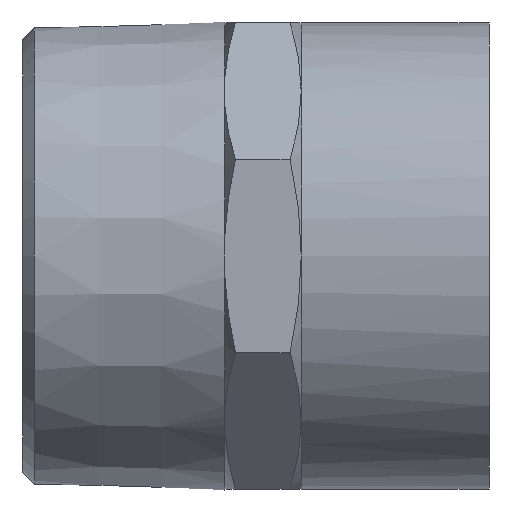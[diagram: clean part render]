
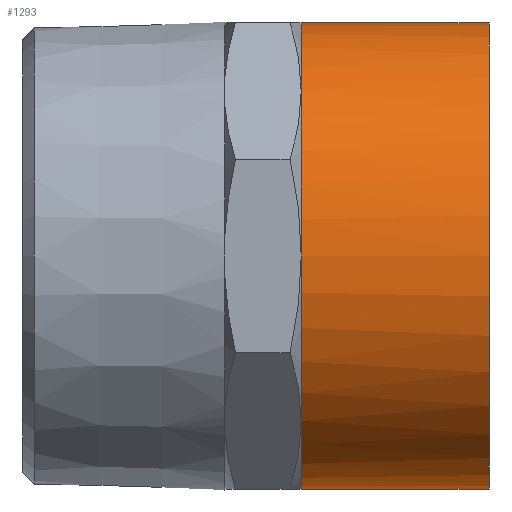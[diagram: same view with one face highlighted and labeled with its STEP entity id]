
A CAD part, front view. The second image highlights one B-rep face of the part: STEP entity #1293.
In plain terms, the highlighted cylindrical face has radius 30 mm (diameter 60 mm), a full revolution.
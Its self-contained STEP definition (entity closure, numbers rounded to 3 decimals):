
#98=CARTESIAN_POINT('',(35.816,30.,0.));
#99=VERTEX_POINT('',#98);
#181=CARTESIAN_POINT('',(35.816,21.213,-21.213));
#182=VERTEX_POINT('',#181);
#264=CARTESIAN_POINT('',(35.816,0.,-30.));
#265=VERTEX_POINT('',#264);
#347=CARTESIAN_POINT('',(35.816,-21.213,-21.213));
#348=VERTEX_POINT('',#347);
#430=CARTESIAN_POINT('',(35.816,-30.,0.));
#431=VERTEX_POINT('',#430);
#616=CARTESIAN_POINT('',(35.816,-21.213,21.213));
#617=VERTEX_POINT('',#616);
#722=CARTESIAN_POINT('',(35.816,21.213,21.213));
#723=VERTEX_POINT('',#722);
#776=CARTESIAN_POINT('',(35.816,0.,30.));
#777=VERTEX_POINT('',#776);
#778=CARTESIAN_POINT('',(35.816,0.0,0.0));
#779=DIRECTION('',(1.0,0.0,0.0));
#780=DIRECTION('',(0.0,1.0,0.0));
#781=AXIS2_PLACEMENT_3D('',#778,#779,#780);
#782=CIRCLE('',#781,30.0);
#783=EDGE_CURVE('',#777,#617,#782,.T.);
#807=CARTESIAN_POINT('',(35.816,0.0,0.0));
#808=DIRECTION('',(1.0,0.0,0.0));
#809=DIRECTION('',(0.0,1.0,0.0));
#810=AXIS2_PLACEMENT_3D('',#807,#808,#809);
#811=CIRCLE('',#810,30.0);
#812=EDGE_CURVE('',#617,#431,#811,.T.);
#824=CARTESIAN_POINT('',(35.816,0.0,0.0));
#825=DIRECTION('',(1.0,0.0,0.0));
#826=DIRECTION('',(0.0,1.0,0.0));
#827=AXIS2_PLACEMENT_3D('',#824,#825,#826);
#828=CIRCLE('',#827,30.0);
#829=EDGE_CURVE('',#431,#348,#828,.T.);
#841=CARTESIAN_POINT('',(35.816,0.0,0.0));
#842=DIRECTION('',(1.0,0.0,0.0));
#843=DIRECTION('',(0.0,1.0,0.0));
#844=AXIS2_PLACEMENT_3D('',#841,#842,#843);
#845=CIRCLE('',#844,30.0);
#846=EDGE_CURVE('',#348,#265,#845,.T.);
#858=CARTESIAN_POINT('',(35.816,0.0,0.0));
#859=DIRECTION('',(1.0,0.0,0.0));
#860=DIRECTION('',(0.0,1.0,0.0));
#861=AXIS2_PLACEMENT_3D('',#858,#859,#860);
#862=CIRCLE('',#861,30.0);
#863=EDGE_CURVE('',#265,#182,#862,.T.);
#875=CARTESIAN_POINT('',(35.816,0.0,0.0));
#876=DIRECTION('',(1.0,0.0,0.0));
#877=DIRECTION('',(0.0,1.0,0.0));
#878=AXIS2_PLACEMENT_3D('',#875,#876,#877);
#879=CIRCLE('',#878,30.0);
#880=EDGE_CURVE('',#182,#99,#879,.T.);
#892=CARTESIAN_POINT('',(35.816,0.0,0.0));
#893=DIRECTION('',(1.0,0.0,0.0));
#894=DIRECTION('',(0.0,1.0,0.0));
#895=AXIS2_PLACEMENT_3D('',#892,#893,#894);
#896=CIRCLE('',#895,30.0);
#897=EDGE_CURVE('',#99,#723,#896,.T.);
#1122=CARTESIAN_POINT('',(35.816,0.0,0.0));
#1123=DIRECTION('',(1.0,0.0,0.0));
#1124=DIRECTION('',(0.0,1.0,0.0));
#1125=AXIS2_PLACEMENT_3D('',#1122,#1123,#1124);
#1126=CIRCLE('',#1125,30.0);
#1127=EDGE_CURVE('',#723,#777,#1126,.T.);
#1267=CARTESIAN_POINT('',(47.908,0.0,0.0));
#1268=DIRECTION('',(1.0,0.0,0.0));
#1269=DIRECTION('',(0.0,1.0,0.0));
#1270=AXIS2_PLACEMENT_3D('',#1267,#1268,#1269);
#1271=CYLINDRICAL_SURFACE('',#1270,30.);
#1272=CARTESIAN_POINT('',(60.0,30.,0.0));
#1273=VERTEX_POINT('',#1272);
#1274=CARTESIAN_POINT('',(60.0,0.0,0.0));
#1275=DIRECTION('',(1.0,0.0,0.0));
#1276=DIRECTION('',(0.0,1.0,0.0));
#1277=AXIS2_PLACEMENT_3D('',#1274,#1275,#1276);
#1278=CIRCLE('',#1277,30.);
#1279=EDGE_CURVE('',#1273,#1273,#1278,.T.);
#1280=ORIENTED_EDGE('',*,*,#1279,.F.);
#1281=EDGE_LOOP('',(#1280));
#1282=FACE_OUTER_BOUND('',#1281,.T.);
#1283=ORIENTED_EDGE('',*,*,#783,.T.);
#1284=ORIENTED_EDGE('',*,*,#812,.T.);
#1285=ORIENTED_EDGE('',*,*,#829,.T.);
#1286=ORIENTED_EDGE('',*,*,#846,.T.);
#1287=ORIENTED_EDGE('',*,*,#863,.T.);
#1288=ORIENTED_EDGE('',*,*,#880,.T.);
#1289=ORIENTED_EDGE('',*,*,#897,.T.);
#1290=ORIENTED_EDGE('',*,*,#1127,.T.);
#1291=EDGE_LOOP('',(#1283,#1284,#1285,#1286,#1287,#1288,#1289,#1290));
#1292=FACE_BOUND('',#1291,.T.);
#1293=ADVANCED_FACE('',(#1282,#1292),#1271,.T.);
